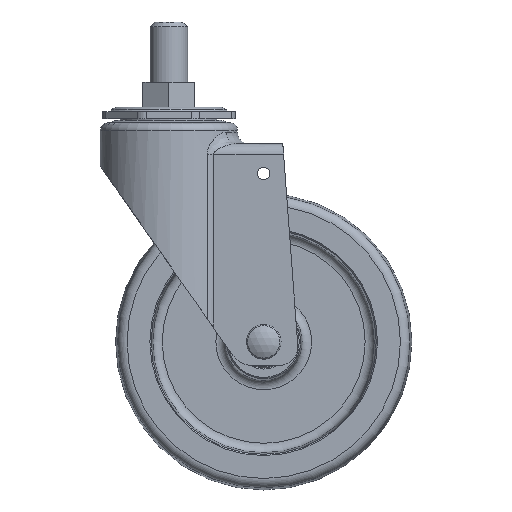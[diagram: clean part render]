
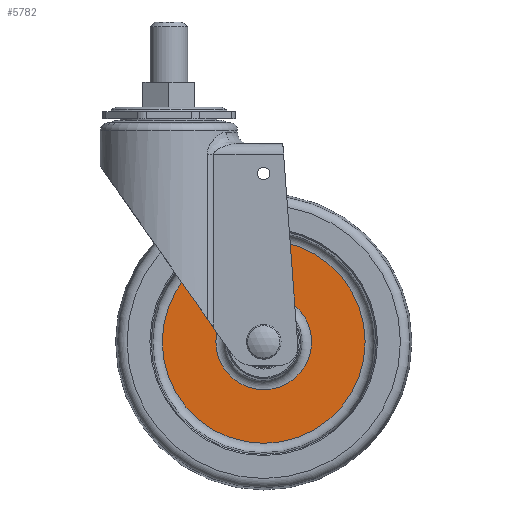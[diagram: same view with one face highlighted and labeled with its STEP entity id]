
A CAD part, front view. The second image highlights one B-rep face of the part: STEP entity #5782.
In plain terms, the highlighted planar face has unit normal (0, -1, 0).
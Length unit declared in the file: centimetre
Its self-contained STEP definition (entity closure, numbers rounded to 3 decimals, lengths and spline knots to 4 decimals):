
#887=PLANE('',#6446);
#1128=FACE_BOUND('',#1966,.T.);
#1492=FACE_OUTER_BOUND('',#1965,.T.);
#1965=EDGE_LOOP('',(#4953));
#1966=EDGE_LOOP('',(#4954));
#2333=CIRCLE('',#6445,2.0182);
#2334=CIRCLE('',#6447,4.2793);
#2832=VERTEX_POINT('',#10738);
#2833=VERTEX_POINT('',#10741);
#3556=EDGE_CURVE('',#2832,#2832,#2333,.T.);
#3557=EDGE_CURVE('',#2833,#2833,#2334,.T.);
#4953=ORIENTED_EDGE('',*,*,#3557,.T.);
#4954=ORIENTED_EDGE('',*,*,#3556,.F.);
#5782=ADVANCED_FACE('',(#1492,#1128),#887,.T.);
#6445=AXIS2_PLACEMENT_3D('',#10739,#8041,#8042);
#6446=AXIS2_PLACEMENT_3D('',#10740,#8043,#8044);
#6447=AXIS2_PLACEMENT_3D('',#10742,#8045,#8046);
#8041=DIRECTION('center_axis',(0.,-1.,0.));
#8042=DIRECTION('ref_axis',(0.,0.,-1.));
#8043=DIRECTION('center_axis',(0.,-1.,0.));
#8044=DIRECTION('ref_axis',(0.,0.,-1.));
#8045=DIRECTION('center_axis',(0.,-1.,0.));
#8046=DIRECTION('ref_axis',(0.,0.,-1.));
#10738=CARTESIAN_POINT('',(4.2336,0.0473,-6.245));
#10739=CARTESIAN_POINT('Origin',(2.2154,0.0473,-6.245));
#10740=CARTESIAN_POINT('Origin',(4.2336,0.0473,-6.245));
#10741=CARTESIAN_POINT('',(6.4947,0.0473,-6.245));
#10742=CARTESIAN_POINT('Origin',(2.2154,0.0473,-6.245));
